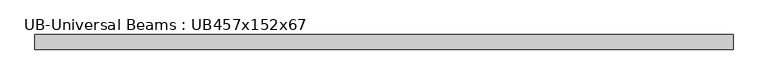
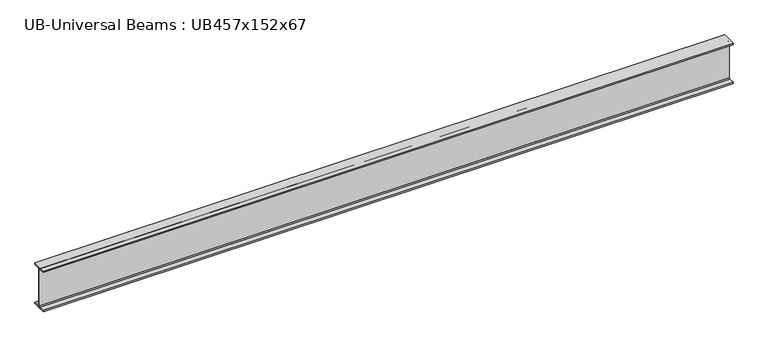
"""IFC4 building model written with IfcOpenShell, lengths in millimetres: beam geometry, UB-Universal Beams : UB457x152x67."""

from ifc_helpers import new_model, si_unit, point, frame, frame_2d, origin, place, context, project, spatial, polyline, circle_curve, trimmed, segment, composite_curve, outline, extrude, source, transform, mapped, element, save


def ub_universal_beams_ub457x152x67_6f79b88a(model_context):
    return source(origin(), model_context, "Body", "SweptSolid", [
        extrude(outline(composite_curve([segment(polyline([(76.9, -214.0), (76.9, -229.0), (-76.9, -229.0), (-76.9, -214.0), (-14.7, -214.0)]), True, "CONTINUOUS"), segment(trimmed(circle_curve(frame_2d((-14.7, -203.8)), 10.2), [point((-14.7, -214.0))], [point((-4.5, -203.8))], True, "CARTESIAN"), True, "CONTINUOUS"), segment(polyline([(-4.5, -203.8), (-4.5, 203.8)]), True, "CONTINUOUS"), segment(trimmed(circle_curve(frame_2d((-14.7, 203.8)), 10.2), [point((-4.5, 203.8))], [point((-14.7, 214.0))], True, "CARTESIAN"), True, "CONTINUOUS"), segment(polyline([(-14.7, 214.0), (-76.9, 214.0), (-76.9, 229.0), (76.9, 229.0), (76.9, 214.0), (14.7, 214.0)]), True, "CONTINUOUS"), segment(trimmed(circle_curve(frame_2d((14.7, 203.8)), 10.2), [point((14.7, 214.0))], [point((4.5, 203.8))], True, "CARTESIAN"), True, "CONTINUOUS"), segment(polyline([(4.5, 203.8), (4.5, -203.8)]), True, "CONTINUOUS"), segment(trimmed(circle_curve(frame_2d((14.7, -203.8)), 10.2), [point((4.5, -203.8))], [point((14.7, -214.0))], True, "CARTESIAN"), True, "CONTINUOUS"), segment(polyline([(14.7, -214.0), (76.9, -214.0)]), True, "CONTINUOUS")], self_intersect=False)), frame((-3750.0, 0.0, 0.0), z_axis=(1.0, 0.0, 0.0), x_axis=(0.0, 1.0, 0.0)), (0.0, 0.0, 1.0), 7356.6),
    ])


if __name__ == "__main__":
    model = new_model("IFC4")
    model_context = context("Model", 3, world=origin())
    ifc_project = project(units=[si_unit("LENGTHUNIT", "METRE", prefix="MILLI")], contexts=[model_context])
    site = spatial("IfcSite", under=ifc_project)
    building = spatial("IfcBuilding", under=site)
    placement = place(None, origin())
    ub_universal_beams_ub457x152x67_shape = ub_universal_beams_ub457x152x67_6f79b88a(model_context)
    element("IfcBeam", 1, ObjectType="UB-Universal Beams : UB457x152x67", at=placement, inside=building, context=model_context, shape_type="MappedRepresentation", body=[
        mapped(ub_universal_beams_ub457x152x67_shape, transform((0.0, 0.0, 0.0), x_axis=(1.0, 0.0, 0.0), y_axis=(0.0, 1.0, 0.0), z_axis=(0.0, 0.0, 1.0))),
    ])
    save(model, "model.ifc")
